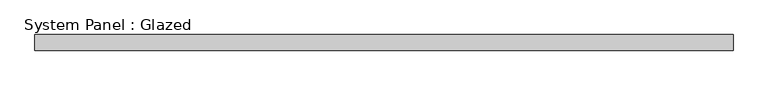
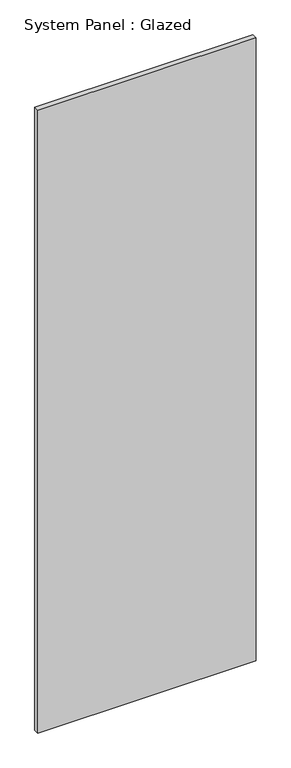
"""IFC4 building model written with IfcOpenShell, lengths in millimetres: plate geometry, System Panel : Glazed."""

from ifc_helpers import new_model, si_unit, origin, origin_with_axes, place, context, project, spatial, polyline, outline, extrude, source, transform, mapped, element, save


def system_panel_glazed_2786322a(model_context):
    return source(origin(), model_context, "Body", "SweptSolid", [
        extrude(outline(polyline([(546.9442129, 24.5), (-546.9442129, 24.5), (-546.9442129, 49.5), (546.9442129, 49.5), (546.9442129, 24.5)])), origin_with_axes(), (0.0, 0.0, 1.0), 3300.0),
    ])


if __name__ == "__main__":
    model = new_model("IFC4")
    model_context = context("Model", 3, world=origin())
    ifc_project = project(units=[si_unit("LENGTHUNIT", "METRE", prefix="MILLI")], contexts=[model_context])
    site = spatial("IfcSite", under=ifc_project)
    building = spatial("IfcBuilding", under=site)
    placement = place(None, origin())
    system_panel_glazed_shape = system_panel_glazed_2786322a(model_context)
    element("IfcPlate", 1, ObjectType="System Panel : Glazed", at=placement, inside=building, context=model_context, shape_type="MappedRepresentation", body=[
        mapped(system_panel_glazed_shape, transform((0.0, 0.0, 0.0), x_axis=(1.0, 0.0, 0.0), y_axis=(0.0, 1.0, 0.0), z_axis=(0.0, 0.0, 1.0))),
    ])
    save(model, "model.ifc")
